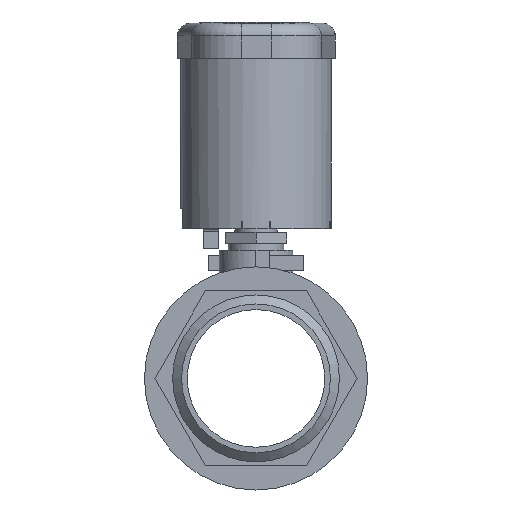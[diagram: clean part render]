
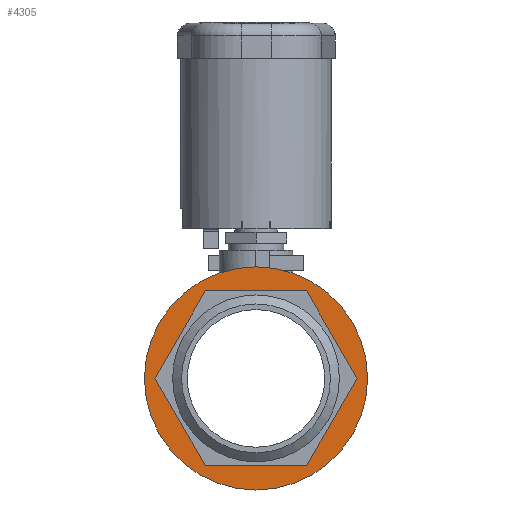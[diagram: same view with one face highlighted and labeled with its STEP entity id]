
A CAD part, left-side view. The second image highlights one B-rep face of the part: STEP entity #4305.
In plain terms, the highlighted planar face has unit normal (-1, 0, 0).
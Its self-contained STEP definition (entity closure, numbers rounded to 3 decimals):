
#4237 = CYLINDRICAL_SURFACE('',#4238,1.727);
#4238 = AXIS2_PLACEMENT_3D('',#4239,#4240,#4241);
#4239 = CARTESIAN_POINT('',(2.519,0.,
    0.));
#4240 = DIRECTION('',(1.,0.,0.));
#4241 = DIRECTION('',(0.,-1.,0.));
#4257 = VERTEX_POINT('',#4258);
#4258 = CARTESIAN_POINT('',(2.519,-1.727,0.));
#4278 = EDGE_CURVE('',#4257,#4257,#4279,.T.);
#4279 = SURFACE_CURVE('',#4280,(#4285,#4292),.PCURVE_S1.);
#4280 = CIRCLE('',#4281,1.727);
#4281 = AXIS2_PLACEMENT_3D('',#4282,#4283,#4284);
#4282 = CARTESIAN_POINT('',(2.519,0.,
    0.));
#4283 = DIRECTION('',(-1.,0.,0.));
#4284 = DIRECTION('',(0.,-1.,0.));
#4285 = PCURVE('',#4237,#4286);
#4286 = DEFINITIONAL_REPRESENTATION('',(#4287),#4291);
#4287 = LINE('',#4288,#4289);
#4288 = CARTESIAN_POINT('',(6.283,0.));
#4289 = VECTOR('',#4290,1.);
#4290 = DIRECTION('',(-1.,0.));
#4291 = ( GEOMETRIC_REPRESENTATION_CONTEXT(2) 
PARAMETRIC_REPRESENTATION_CONTEXT() REPRESENTATION_CONTEXT('2D SPACE',''
  ) );
#4292 = PCURVE('',#4293,#4298);
#4293 = PLANE('',#4294);
#4294 = AXIS2_PLACEMENT_3D('',#4295,#4296,#4297);
#4295 = CARTESIAN_POINT('',(2.519,0.,
    0.));
#4296 = DIRECTION('',(-1.,0.,0.));
#4297 = DIRECTION('',(0.,0.,1.));
#4298 = DEFINITIONAL_REPRESENTATION('',(#4299),#4303);
#4299 = CIRCLE('',#4300,1.727);
#4300 = AXIS2_PLACEMENT_2D('',#4301,#4302);
#4301 = CARTESIAN_POINT('',(0.,0.));
#4302 = DIRECTION('',(0.,-1.));
#4303 = ( GEOMETRIC_REPRESENTATION_CONTEXT(2) 
PARAMETRIC_REPRESENTATION_CONTEXT() REPRESENTATION_CONTEXT('2D SPACE',''
  ) );
#4305 = ADVANCED_FACE('',(#4306,#4476),#4293,.T.);
#4306 = FACE_BOUND('',#4307,.T.);
#4307 = EDGE_LOOP('',(#4308,#4338,#4366,#4394,#4422,#4450));
#4308 = ORIENTED_EDGE('',*,*,#4309,.T.);
#4309 = EDGE_CURVE('',#4310,#4312,#4314,.T.);
#4310 = VERTEX_POINT('',#4311);
#4311 = CARTESIAN_POINT('',(2.519,-0.782,1.355));
#4312 = VERTEX_POINT('',#4313);
#4313 = CARTESIAN_POINT('',(2.519,-1.565,0.));
#4314 = SURFACE_CURVE('',#4315,(#4319,#4326),.PCURVE_S1.);
#4315 = LINE('',#4316,#4317);
#4316 = CARTESIAN_POINT('',(2.519,-1.173,0.678));
#4317 = VECTOR('',#4318,1.);
#4318 = DIRECTION('',(0.,-0.5,-0.866));
#4319 = PCURVE('',#4293,#4320);
#4320 = DEFINITIONAL_REPRESENTATION('',(#4321),#4325);
#4321 = LINE('',#4322,#4323);
#4322 = CARTESIAN_POINT('',(0.678,-1.173));
#4323 = VECTOR('',#4324,1.);
#4324 = DIRECTION('',(-0.866,-0.5));
#4325 = ( GEOMETRIC_REPRESENTATION_CONTEXT(2) 
PARAMETRIC_REPRESENTATION_CONTEXT() REPRESENTATION_CONTEXT('2D SPACE',''
  ) );
#4326 = PCURVE('',#4327,#4332);
#4327 = PLANE('',#4328);
#4328 = AXIS2_PLACEMENT_3D('',#4329,#4330,#4331);
#4329 = CARTESIAN_POINT('',(2.049,-1.173,0.678));
#4330 = DIRECTION('',(0.,-0.866,0.5));
#4331 = DIRECTION('',(0.,-0.5,-0.866));
#4332 = DEFINITIONAL_REPRESENTATION('',(#4333),#4337);
#4333 = LINE('',#4334,#4335);
#4334 = CARTESIAN_POINT('',(0.,0.47));
#4335 = VECTOR('',#4336,1.);
#4336 = DIRECTION('',(1.,0.));
#4337 = ( GEOMETRIC_REPRESENTATION_CONTEXT(2) 
PARAMETRIC_REPRESENTATION_CONTEXT() REPRESENTATION_CONTEXT('2D SPACE',''
  ) );
#4338 = ORIENTED_EDGE('',*,*,#4339,.T.);
#4339 = EDGE_CURVE('',#4312,#4340,#4342,.T.);
#4340 = VERTEX_POINT('',#4341);
#4341 = CARTESIAN_POINT('',(2.519,-0.782,-1.355));
#4342 = SURFACE_CURVE('',#4343,(#4347,#4354),.PCURVE_S1.);
#4343 = LINE('',#4344,#4345);
#4344 = CARTESIAN_POINT('',(2.519,-1.173,-0.678));
#4345 = VECTOR('',#4346,1.);
#4346 = DIRECTION('',(0.,0.5,-0.866));
#4347 = PCURVE('',#4293,#4348);
#4348 = DEFINITIONAL_REPRESENTATION('',(#4349),#4353);
#4349 = LINE('',#4350,#4351);
#4350 = CARTESIAN_POINT('',(-0.678,-1.173));
#4351 = VECTOR('',#4352,1.);
#4352 = DIRECTION('',(-0.866,0.5));
#4353 = ( GEOMETRIC_REPRESENTATION_CONTEXT(2) 
PARAMETRIC_REPRESENTATION_CONTEXT() REPRESENTATION_CONTEXT('2D SPACE',''
  ) );
#4354 = PCURVE('',#4355,#4360);
#4355 = PLANE('',#4356);
#4356 = AXIS2_PLACEMENT_3D('',#4357,#4358,#4359);
#4357 = CARTESIAN_POINT('',(2.049,-1.173,-0.678));
#4358 = DIRECTION('',(0.,-0.866,-0.5));
#4359 = DIRECTION('',(0.,0.5,-0.866));
#4360 = DEFINITIONAL_REPRESENTATION('',(#4361),#4365);
#4361 = LINE('',#4362,#4363);
#4362 = CARTESIAN_POINT('',(0.,0.47));
#4363 = VECTOR('',#4364,1.);
#4364 = DIRECTION('',(1.,0.));
#4365 = ( GEOMETRIC_REPRESENTATION_CONTEXT(2) 
PARAMETRIC_REPRESENTATION_CONTEXT() REPRESENTATION_CONTEXT('2D SPACE',''
  ) );
#4366 = ORIENTED_EDGE('',*,*,#4367,.T.);
#4367 = EDGE_CURVE('',#4340,#4368,#4370,.T.);
#4368 = VERTEX_POINT('',#4369);
#4369 = CARTESIAN_POINT('',(2.519,0.782,-1.355));
#4370 = SURFACE_CURVE('',#4371,(#4375,#4382),.PCURVE_S1.);
#4371 = LINE('',#4372,#4373);
#4372 = CARTESIAN_POINT('',(2.519,0.,-1.355));
#4373 = VECTOR('',#4374,1.);
#4374 = DIRECTION('',(0.,1.,0.));
#4375 = PCURVE('',#4293,#4376);
#4376 = DEFINITIONAL_REPRESENTATION('',(#4377),#4381);
#4377 = LINE('',#4378,#4379);
#4378 = CARTESIAN_POINT('',(-1.355,0.));
#4379 = VECTOR('',#4380,1.);
#4380 = DIRECTION('',(0.,1.));
#4381 = ( GEOMETRIC_REPRESENTATION_CONTEXT(2) 
PARAMETRIC_REPRESENTATION_CONTEXT() REPRESENTATION_CONTEXT('2D SPACE',''
  ) );
#4382 = PCURVE('',#4383,#4388);
#4383 = PLANE('',#4384);
#4384 = AXIS2_PLACEMENT_3D('',#4385,#4386,#4387);
#4385 = CARTESIAN_POINT('',(2.049,0.,-1.355));
#4386 = DIRECTION('',(0.,0.,-1.));
#4387 = DIRECTION('',(0.,1.,0.));
#4388 = DEFINITIONAL_REPRESENTATION('',(#4389),#4393);
#4389 = LINE('',#4390,#4391);
#4390 = CARTESIAN_POINT('',(0.,0.47));
#4391 = VECTOR('',#4392,1.);
#4392 = DIRECTION('',(1.,0.));
#4393 = ( GEOMETRIC_REPRESENTATION_CONTEXT(2) 
PARAMETRIC_REPRESENTATION_CONTEXT() REPRESENTATION_CONTEXT('2D SPACE',''
  ) );
#4394 = ORIENTED_EDGE('',*,*,#4395,.T.);
#4395 = EDGE_CURVE('',#4368,#4396,#4398,.T.);
#4396 = VERTEX_POINT('',#4397);
#4397 = CARTESIAN_POINT('',(2.519,1.565,0.));
#4398 = SURFACE_CURVE('',#4399,(#4403,#4410),.PCURVE_S1.);
#4399 = LINE('',#4400,#4401);
#4400 = CARTESIAN_POINT('',(2.519,1.173,-0.678));
#4401 = VECTOR('',#4402,1.);
#4402 = DIRECTION('',(0.,0.5,0.866));
#4403 = PCURVE('',#4293,#4404);
#4404 = DEFINITIONAL_REPRESENTATION('',(#4405),#4409);
#4405 = LINE('',#4406,#4407);
#4406 = CARTESIAN_POINT('',(-0.678,1.173));
#4407 = VECTOR('',#4408,1.);
#4408 = DIRECTION('',(0.866,0.5));
#4409 = ( GEOMETRIC_REPRESENTATION_CONTEXT(2) 
PARAMETRIC_REPRESENTATION_CONTEXT() REPRESENTATION_CONTEXT('2D SPACE',''
  ) );
#4410 = PCURVE('',#4411,#4416);
#4411 = PLANE('',#4412);
#4412 = AXIS2_PLACEMENT_3D('',#4413,#4414,#4415);
#4413 = CARTESIAN_POINT('',(2.049,1.173,-0.678));
#4414 = DIRECTION('',(0.,0.866,-0.5));
#4415 = DIRECTION('',(0.,0.5,0.866));
#4416 = DEFINITIONAL_REPRESENTATION('',(#4417),#4421);
#4417 = LINE('',#4418,#4419);
#4418 = CARTESIAN_POINT('',(0.,0.47));
#4419 = VECTOR('',#4420,1.);
#4420 = DIRECTION('',(1.,0.));
#4421 = ( GEOMETRIC_REPRESENTATION_CONTEXT(2) 
PARAMETRIC_REPRESENTATION_CONTEXT() REPRESENTATION_CONTEXT('2D SPACE',''
  ) );
#4422 = ORIENTED_EDGE('',*,*,#4423,.T.);
#4423 = EDGE_CURVE('',#4396,#4424,#4426,.T.);
#4424 = VERTEX_POINT('',#4425);
#4425 = CARTESIAN_POINT('',(2.519,0.782,1.355));
#4426 = SURFACE_CURVE('',#4427,(#4431,#4438),.PCURVE_S1.);
#4427 = LINE('',#4428,#4429);
#4428 = CARTESIAN_POINT('',(2.519,1.173,0.678));
#4429 = VECTOR('',#4430,1.);
#4430 = DIRECTION('',(0.,-0.5,0.866));
#4431 = PCURVE('',#4293,#4432);
#4432 = DEFINITIONAL_REPRESENTATION('',(#4433),#4437);
#4433 = LINE('',#4434,#4435);
#4434 = CARTESIAN_POINT('',(0.678,1.173));
#4435 = VECTOR('',#4436,1.);
#4436 = DIRECTION('',(0.866,-0.5));
#4437 = ( GEOMETRIC_REPRESENTATION_CONTEXT(2) 
PARAMETRIC_REPRESENTATION_CONTEXT() REPRESENTATION_CONTEXT('2D SPACE',''
  ) );
#4438 = PCURVE('',#4439,#4444);
#4439 = PLANE('',#4440);
#4440 = AXIS2_PLACEMENT_3D('',#4441,#4442,#4443);
#4441 = CARTESIAN_POINT('',(2.049,1.173,0.678));
#4442 = DIRECTION('',(0.,0.866,0.5));
#4443 = DIRECTION('',(0.,-0.5,0.866));
#4444 = DEFINITIONAL_REPRESENTATION('',(#4445),#4449);
#4445 = LINE('',#4446,#4447);
#4446 = CARTESIAN_POINT('',(0.,0.47));
#4447 = VECTOR('',#4448,1.);
#4448 = DIRECTION('',(1.,0.));
#4449 = ( GEOMETRIC_REPRESENTATION_CONTEXT(2) 
PARAMETRIC_REPRESENTATION_CONTEXT() REPRESENTATION_CONTEXT('2D SPACE',''
  ) );
#4450 = ORIENTED_EDGE('',*,*,#4451,.T.);
#4451 = EDGE_CURVE('',#4424,#4310,#4452,.T.);
#4452 = SURFACE_CURVE('',#4453,(#4457,#4464),.PCURVE_S1.);
#4453 = LINE('',#4454,#4455);
#4454 = CARTESIAN_POINT('',(2.519,0.,1.355));
#4455 = VECTOR('',#4456,1.);
#4456 = DIRECTION('',(0.,-1.,0.));
#4457 = PCURVE('',#4293,#4458);
#4458 = DEFINITIONAL_REPRESENTATION('',(#4459),#4463);
#4459 = LINE('',#4460,#4461);
#4460 = CARTESIAN_POINT('',(1.355,0.));
#4461 = VECTOR('',#4462,1.);
#4462 = DIRECTION('',(0.,-1.));
#4463 = ( GEOMETRIC_REPRESENTATION_CONTEXT(2) 
PARAMETRIC_REPRESENTATION_CONTEXT() REPRESENTATION_CONTEXT('2D SPACE',''
  ) );
#4464 = PCURVE('',#4465,#4470);
#4465 = PLANE('',#4466);
#4466 = AXIS2_PLACEMENT_3D('',#4467,#4468,#4469);
#4467 = CARTESIAN_POINT('',(2.049,0.,1.355));
#4468 = DIRECTION('',(0.,0.,1.));
#4469 = DIRECTION('',(0.,-1.,0.));
#4470 = DEFINITIONAL_REPRESENTATION('',(#4471),#4475);
#4471 = LINE('',#4472,#4473);
#4472 = CARTESIAN_POINT('',(0.,0.47));
#4473 = VECTOR('',#4474,1.);
#4474 = DIRECTION('',(1.,0.));
#4475 = ( GEOMETRIC_REPRESENTATION_CONTEXT(2) 
PARAMETRIC_REPRESENTATION_CONTEXT() REPRESENTATION_CONTEXT('2D SPACE',''
  ) );
#4476 = FACE_BOUND('',#4477,.T.);
#4477 = EDGE_LOOP('',(#4478));
#4478 = ORIENTED_EDGE('',*,*,#4278,.T.);
